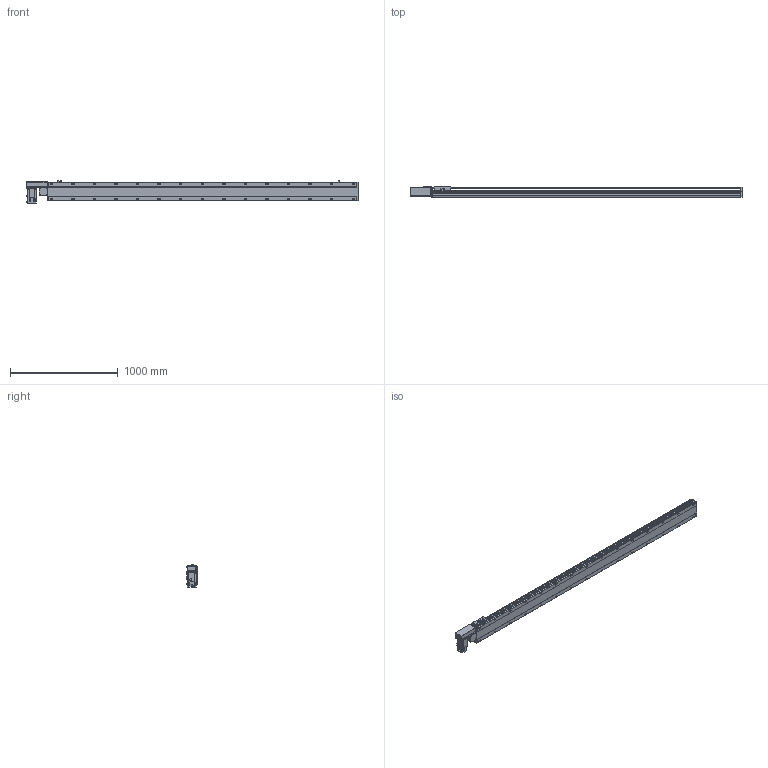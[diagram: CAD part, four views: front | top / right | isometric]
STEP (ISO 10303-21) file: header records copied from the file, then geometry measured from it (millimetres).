
FILE_DESCRIPTION(/* description */ ('STEP AP214'),/* implementation_level */ '2;1');
FILE_NAME(/* name */ 'PBS170-P40-S2600-R-T75-C1-N(0)',/* time_stamp */ '2022-06-07T09:32:46+02:00',/* author */ ('License CC BY-ND 4.0'),/* organization */ ('CADENAS'),/* preprocessor_version */ 'ST-DEVELOPER v18.102',/* originating_system */ 'PARTsolutions',/* authorisation */ ' ');
FILE_SCHEMA (('AUTOMOTIVE_DESIGN {1 0 10303 214 3 1 1}'));
Length unit declared in the file: millimetre
Products named in the file (7): PBS170-P40-S2600-R-T75-C1-N(0); PBS170_sensor; PBS170_plant; PBS170_sliser; T75-p1; PBS170T-R_motors; PBS170-S2600()_body
Assembly tree (8 placements, depth 2):
  PBS170-P40-S2600-R-T75-C1-N(0)
    PBS170_sensor  x3
    PBS170_plant
    PBS170_sliser
    T75-p1
    PBS170T-R_motors
    PBS170-S2600()_body
Bounding box: 3078 x 97 x 205.3 mm (x, y, z)
Volume: 22393144.2 mm3; surface area: 2814760.3 mm2
Topology: 8 solids, 8 shells, 1194 faces, 3155 edges, 2056 vertices
Faces by surface type: plane 729, cylinder 395, cone 60, sphere 8, torus 2
Full cylindrical faces by diameter (mm): 3.242 x4, 4 x2, 4.4 x4, 4.5 x6, 4.917 x4, 6 x9, 6.647 x38, 7 x2, 7.5 x4, 8 x8, 8.5 x30, 10 x4, 10.5 x30, 11 x2, 30 x2, 40 x1, 70 x1
Entity records: 34324 total; most frequent: CARTESIAN_POINT 6497, DIRECTION 5790, ORIENTED_EDGE 5448, EDGE_CURVE 2724, AXIS2_PLACEMENT_3D 2047, VERTEX_POINT 1898, LINE 1696, VECTOR 1696
